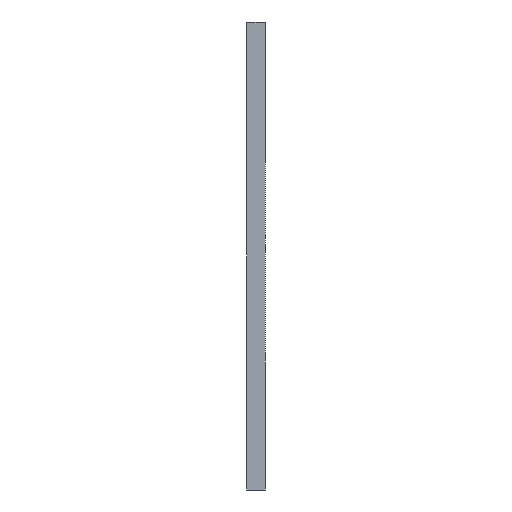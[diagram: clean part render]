
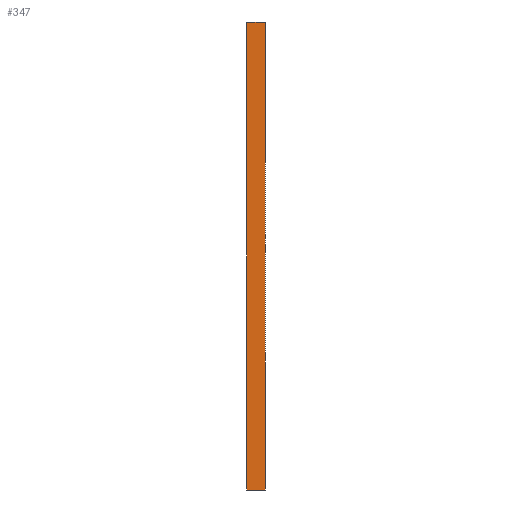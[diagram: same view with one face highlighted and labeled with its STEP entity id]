
A CAD part, left-side view. The second image highlights one B-rep face of the part: STEP entity #347.
In plain terms, the highlighted planar face has unit normal (-1, 0, 0).
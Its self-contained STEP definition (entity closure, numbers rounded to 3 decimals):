
#23 = VERTEX_POINT ( 'NONE', #408 ) ;
#49 = VECTOR ( 'NONE', #833, 1000. ) ;
#75 = EDGE_CURVE ( 'NONE', #1012, #679, #642, .T. ) ;
#135 = AXIS2_PLACEMENT_3D ( 'NONE', #224, #1010, #1082 ) ;
#180 = VECTOR ( 'NONE', #980, 1000. ) ;
#183 = ORIENTED_EDGE ( 'NONE', *, *, #736, .F. ) ;
#224 = CARTESIAN_POINT ( 'NONE',  ( -305.5, -20., -454. ) ) ;
#272 = ORIENTED_EDGE ( 'NONE', *, *, #75, .T. ) ;
#283 = VECTOR ( 'NONE', #942, 1000. ) ;
#338 = CARTESIAN_POINT ( 'NONE',  ( -305.5, 0., -454. ) ) ;
#347 = ADVANCED_FACE ( 'NONE', ( #646 ), #480, .T. ) ;
#405 = CARTESIAN_POINT ( 'NONE',  ( -305.5, 0., 50. ) ) ;
#408 = CARTESIAN_POINT ( 'NONE',  ( -305.5, 0., -454. ) ) ;
#438 = ORIENTED_EDGE ( 'NONE', *, *, #627, .F. ) ;
#462 = CARTESIAN_POINT ( 'NONE',  ( -305.5, -20., -454. ) ) ;
#474 = CARTESIAN_POINT ( 'NONE',  ( -305.5, -20., -454. ) ) ;
#480 = PLANE ( 'NONE',  #135 ) ;
#490 = ORIENTED_EDGE ( 'NONE', *, *, #635, .T. ) ;
#627 = EDGE_CURVE ( 'NONE', #1012, #23, #823, .T. ) ;
#635 = EDGE_CURVE ( 'NONE', #679, #1064, #918, .T. ) ;
#642 = LINE ( 'NONE', #462, #916 ) ;
#646 = FACE_OUTER_BOUND ( 'NONE', #1121, .T. ) ;
#679 = VERTEX_POINT ( 'NONE', #838 ) ;
#736 = EDGE_CURVE ( 'NONE', #23, #1064, #1037, .T. ) ;
#742 = CARTESIAN_POINT ( 'NONE',  ( -305.5, -20., 50. ) ) ;
#823 = LINE ( 'NONE', #830, #180 ) ;
#830 = CARTESIAN_POINT ( 'NONE',  ( -305.5, -20., -454. ) ) ;
#833 = DIRECTION ( 'NONE',  ( 0., 1., 0. ) ) ;
#838 = CARTESIAN_POINT ( 'NONE',  ( -305.5, -20., 50. ) ) ;
#901 = DIRECTION ( 'NONE',  ( 0., 0., 1. ) ) ;
#916 = VECTOR ( 'NONE', #901, 1000. ) ;
#918 = LINE ( 'NONE', #742, #49 ) ;
#942 = DIRECTION ( 'NONE',  ( 0., 0., 1. ) ) ;
#980 = DIRECTION ( 'NONE',  ( 0., 1., 0. ) ) ;
#1010 = DIRECTION ( 'NONE',  ( -1., 0., 0. ) ) ;
#1012 = VERTEX_POINT ( 'NONE', #474 ) ;
#1037 = LINE ( 'NONE', #338, #283 ) ;
#1064 = VERTEX_POINT ( 'NONE', #405 ) ;
#1082 = DIRECTION ( 'NONE',  ( 0., 0., 1. ) ) ;
#1121 = EDGE_LOOP ( 'NONE', ( #183, #438, #272, #490 ) ) ;
